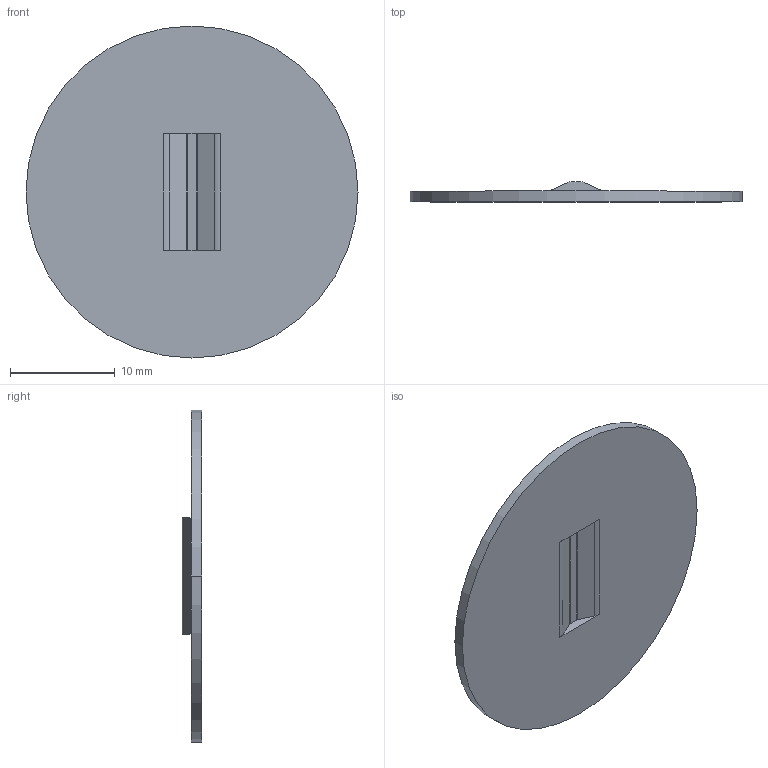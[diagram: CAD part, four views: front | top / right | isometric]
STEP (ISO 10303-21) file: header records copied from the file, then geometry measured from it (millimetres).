
FILE_DESCRIPTION (( 'STEP AP203' ), '1' );
FILE_NAME ('859127 -10.STEP', '2024-11-15T19:40:10', ( 'Admin' ), ( 'Microsoft' ), 'SwSTEP 2.0', 'SolidWorks 2024', '' );
FILE_SCHEMA (( 'CONFIG_CONTROL_DESIGN' ));
Length unit declared in the file: inch
Products named in the file (1): 859127 -10
Bounding box: 31.75 x 1.91 x 31.75 mm (x, y, z)
Volume: 808.6 mm3; surface area: 1704.1 mm2
Topology: 1 solids, 1 shells, 22 faces, 54 edges, 36 vertices
Faces by surface type: plane 12, cylinder 10
Entity records: 737 total; most frequent: DIRECTION 120, CARTESIAN_POINT 113, ORIENTED_EDGE 108, EDGE_CURVE 54, AXIS2_PLACEMENT_3D 43, VERTEX_POINT 36, LINE 34, VECTOR 34
